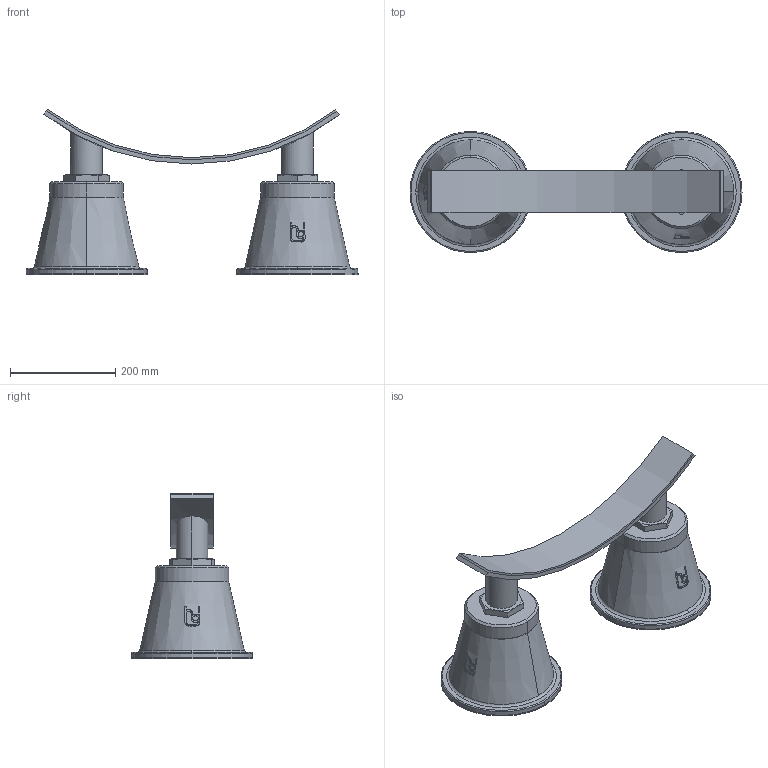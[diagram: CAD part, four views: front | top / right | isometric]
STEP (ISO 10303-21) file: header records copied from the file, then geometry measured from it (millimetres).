
FILE_DESCRIPTION(('STEP AP214'),'1');
FILE_NAME('RSRFN-DUO_DN900.stp','2018-06-29T13:37:47',(' '),(' '),'Spatial InterOp 3D',' ',' ');
FILE_SCHEMA(('automotive_design'));
Length unit declared in the file: millimetre
Products named in the file (10): 1; 2; 3; 4; 5; 6; 7; 8; 9; 10
Bounding box: 630 x 230 x 314.3 mm (x, y, z)
Volume: 10160012.5 mm3; surface area: 890082 mm2
Topology: 10 solids, 12 shells, 210 faces, 507 edges, 331 vertices
Faces by surface type: cylinder 86, plane 82, cone 34, torus 8
Entity records: 9537 total; most frequent: CARTESIAN_POINT 2755, DIRECTION 1034, ORIENTED_EDGE 1014, EDGE_CURVE 507, AXIS2_PLACEMENT_3D 404, VERTEX_POINT 331, EDGE_LOOP 228, LINE 226
